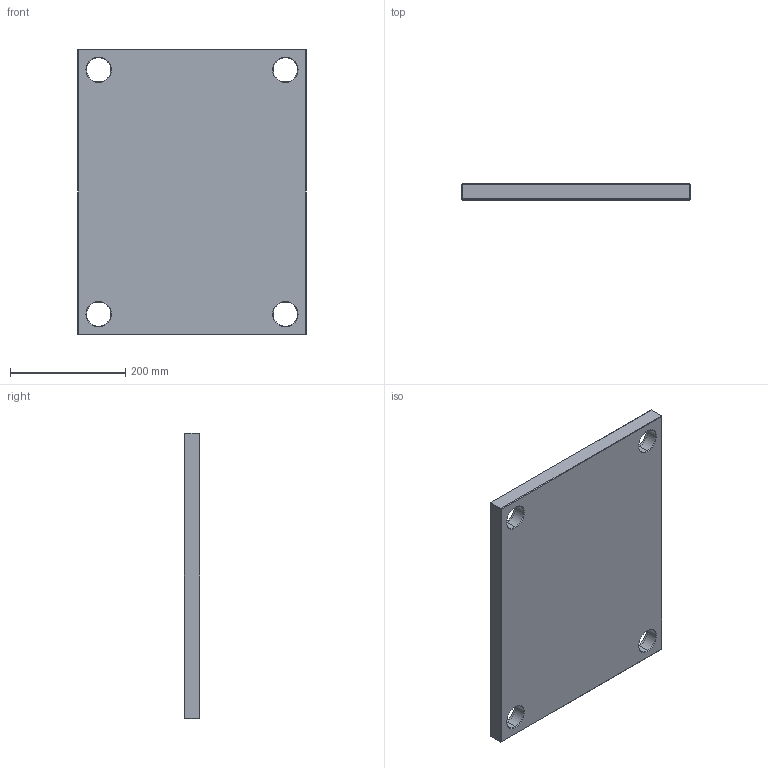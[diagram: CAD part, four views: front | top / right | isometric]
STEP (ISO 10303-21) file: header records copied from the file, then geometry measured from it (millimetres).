
FILE_DESCRIPTION (( 'STEP AP214' ), '1' );
FILE_NAME ('PC-396x496x27.STEP', '2020-04-21T17:21:37', ( 'August' ), ( '' ), 'SwSTEP 2.0', 'SolidWorks 2018', '' );
FILE_SCHEMA (( 'AUTOMOTIVE_DESIGN' ));
Length unit declared in the file: millimetre
Products named in the file (1): PC-396x496x27
Bounding box: 396 x 27 x 496 mm (x, y, z)
Volume: 5122711.8 mm3; surface area: 446144.1 mm2
Topology: 1 solids, 1 shells, 82 faces, 168 edges, 96 vertices
Faces by surface type: plane 34, cone 24, cylinder 24
Entity records: 2170 total; most frequent: DIRECTION 406, CARTESIAN_POINT 347, ORIENTED_EDGE 336, EDGE_CURVE 168, AXIS2_PLACEMENT_3D 155, EDGE_LOOP 98, VERTEX_POINT 96, VECTOR 96
